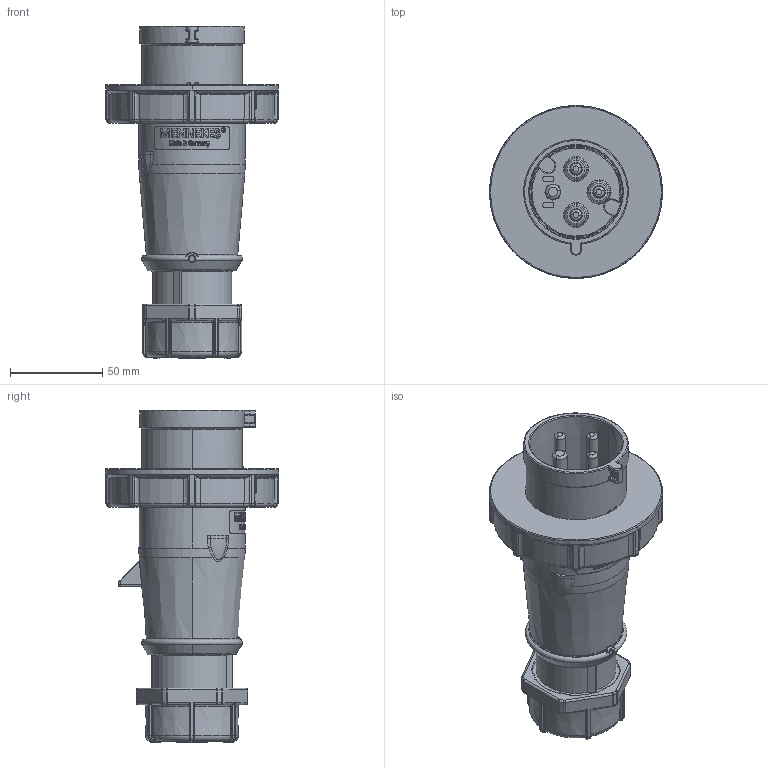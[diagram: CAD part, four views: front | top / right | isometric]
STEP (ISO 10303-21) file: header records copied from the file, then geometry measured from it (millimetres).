
FILE_DESCRIPTION((''),'2;1');
FILE_NAME('1109679_ASM_SW0001','2018-01-26T',('gisse'),('MENNEKES'),'PRO/ENGINEER BY PARAMETRIC TECHNOLOGY CORPORATION, 2015440','PRO/ENGINEER BY PARAMETRIC TECHNOLOGY CORPORATION, 2015440','');
FILE_SCHEMA(('AUTOMOTIVE_DESIGN { 1 0 10303 214 1 1 1 1 }'));
Products named in the file (1): 1109679_ASM_SW0001
Bounding box: 93.96 x 94 x 180.3 mm (x, y, z)
Volume: 394193.7 mm3; surface area: 63008.8 mm2
Topology: 1 solids, 1 shells, 1624 faces, 4216 edges, 2649 vertices
Faces by surface type: plane 657, extrusion 242, bspline 229, cylinder 220, torus 160, cone 94, sphere 22
Entity records: 79917 total; most frequent: CARTESIAN_POINT 22699, ORIENTED_EDGE 8422, DIRECTION 6625, EDGE_CURVE 4211, FILL_AREA_STYLE_COLOUR 3119, FILL_AREA_STYLE 3119, SURFACE_STYLE_FILL_AREA 3119, SURFACE_SIDE_STYLE 3119
